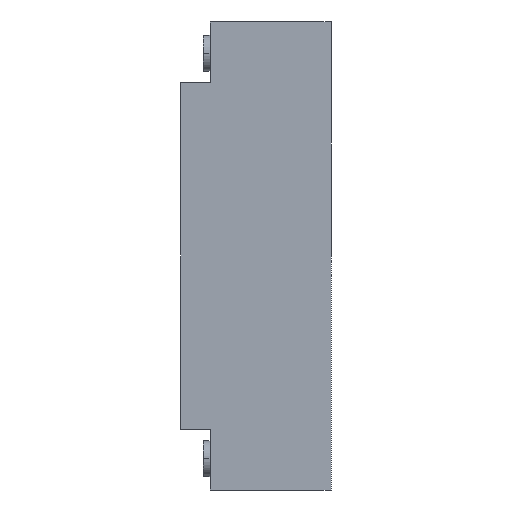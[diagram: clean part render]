
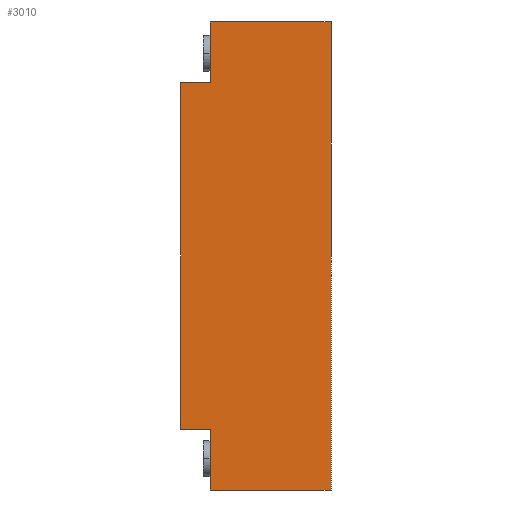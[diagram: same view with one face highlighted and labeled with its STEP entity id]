
A CAD part, left-side view. The second image highlights one B-rep face of the part: STEP entity #3010.
In plain terms, the highlighted planar face has unit normal (-1, 0, 0).
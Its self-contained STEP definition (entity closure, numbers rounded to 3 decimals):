
#1=DIRECTION('',(0.,1.,0.));
#2=VECTOR('',#1,34.9);
#3=CARTESIAN_POINT('',(-188.1,0.,-67.5));
#4=LINE('',#3,#2);
#5=DIRECTION('',(0.,0.,1.));
#6=VECTOR('',#5,17.5);
#7=CARTESIAN_POINT('',(-188.1,34.9,-67.5));
#8=LINE('',#7,#6);
#9=DIRECTION('',(0.,1.,0.));
#10=VECTOR('',#9,8.4);
#11=CARTESIAN_POINT('',(-188.1,34.9,-50.));
#12=LINE('',#11,#10);
#13=DIRECTION('',(0.,0.,1.));
#14=VECTOR('',#13,100.);
#15=CARTESIAN_POINT('',(-188.1,43.3,-50.));
#16=LINE('',#15,#14);
#17=DIRECTION('',(0.,-1.,0.));
#18=VECTOR('',#17,8.4);
#19=CARTESIAN_POINT('',(-188.1,43.3,50.));
#20=LINE('',#19,#18);
#21=DIRECTION('',(0.,0.,1.));
#22=VECTOR('',#21,17.5);
#23=CARTESIAN_POINT('',(-188.1,34.9,50.));
#24=LINE('',#23,#22);
#25=DIRECTION('',(0.,-1.,0.));
#26=VECTOR('',#25,34.9);
#27=CARTESIAN_POINT('',(-188.1,34.9,67.5));
#28=LINE('',#27,#26);
#29=DIRECTION('',(0.,0.,-1.));
#30=VECTOR('',#29,135.);
#31=CARTESIAN_POINT('',(-188.1,0.,67.5));
#32=LINE('',#31,#30);
#2285=CARTESIAN_POINT('',(-188.1,0.,-67.5));
#2286=CARTESIAN_POINT('',(-188.1,34.9,-67.5));
#2287=VERTEX_POINT('',#2285);
#2288=VERTEX_POINT('',#2286);
#2289=CARTESIAN_POINT('',(-188.1,34.9,-50.));
#2290=VERTEX_POINT('',#2289);
#2291=CARTESIAN_POINT('',(-188.1,43.3,-50.));
#2292=VERTEX_POINT('',#2291);
#2293=CARTESIAN_POINT('',(-188.1,43.3,50.));
#2294=VERTEX_POINT('',#2293);
#2295=CARTESIAN_POINT('',(-188.1,34.9,50.));
#2296=VERTEX_POINT('',#2295);
#2297=CARTESIAN_POINT('',(-188.1,34.9,67.5));
#2298=VERTEX_POINT('',#2297);
#2299=CARTESIAN_POINT('',(-188.1,0.,67.5));
#2300=VERTEX_POINT('',#2299);
#2987=CARTESIAN_POINT('',(-188.1,0.,0.));
#2988=DIRECTION('',(1.,0.,0.));
#2989=DIRECTION('',(0.,-1.,0.));
#2990=AXIS2_PLACEMENT_3D('',#2987,#2988,#2989);
#2991=PLANE('',#2990);
#2993=ORIENTED_EDGE('',*,*,#2992,.T.);
#2995=ORIENTED_EDGE('',*,*,#2994,.T.);
#2997=ORIENTED_EDGE('',*,*,#2996,.T.);
#2999=ORIENTED_EDGE('',*,*,#2998,.T.);
#3001=ORIENTED_EDGE('',*,*,#3000,.T.);
#3003=ORIENTED_EDGE('',*,*,#3002,.T.);
#3005=ORIENTED_EDGE('',*,*,#3004,.T.);
#3007=ORIENTED_EDGE('',*,*,#3006,.T.);
#3008=EDGE_LOOP('',(#2993,#2995,#2997,#2999,#3001,#3003,#3005,#3007));
#3009=FACE_OUTER_BOUND('',#3008,.F.);
#3010=ADVANCED_FACE('',(#3009),#2991,.F.);
#2992=EDGE_CURVE('',#2287,#2288,#4,.T.);
#2994=EDGE_CURVE('',#2288,#2290,#8,.T.);
#2996=EDGE_CURVE('',#2290,#2292,#12,.T.);
#2998=EDGE_CURVE('',#2292,#2294,#16,.T.);
#3000=EDGE_CURVE('',#2294,#2296,#20,.T.);
#3002=EDGE_CURVE('',#2296,#2298,#24,.T.);
#3004=EDGE_CURVE('',#2298,#2300,#28,.T.);
#3006=EDGE_CURVE('',#2300,#2287,#32,.T.);
